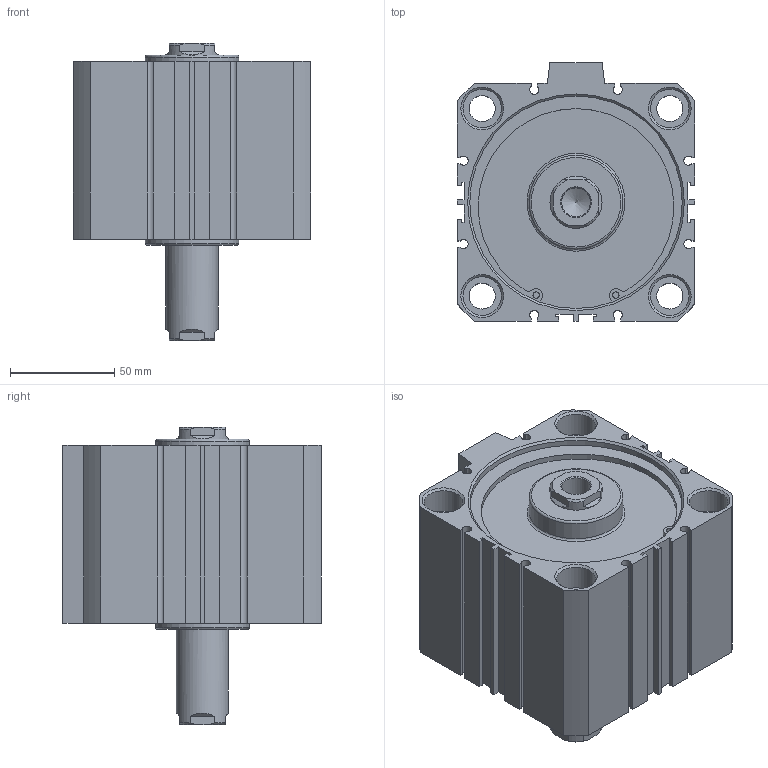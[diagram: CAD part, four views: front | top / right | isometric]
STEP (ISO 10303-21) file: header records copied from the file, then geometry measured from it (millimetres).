
FILE_DESCRIPTION((''),'2;1');
FILE_NAME('I:\3D電子目錄\氣缸\JDD\JDD\JDD100\JDD100x40.stp','2007-02-08T11:56:47',('662F206'),(''),'Autodesk Inventor 10','Autodesk Inventor 10','');
FILE_SCHEMA(('AUTOMOTIVE_DESIGN { 1 0 10303 214 1 1 1 1 }'));
Length unit declared in the file: millimetre
Products named in the file (3): JDD100; R 形環 100
Assembly tree (3 placements, depth 2):
  JDD100
    JDD100
    R 形環 100  x2
Bounding box: 114 x 124 x 142.7 mm (x, y, z)
Volume: 962765.8 mm3; surface area: 118173.9 mm2
Topology: 3 solids, 3 shells, 200 faces, 502 edges, 330 vertices
Faces by surface type: plane 116, cylinder 52, cone 24, bspline 6, torus 2
Full cylindrical faces by diameter (mm): 3.1 x4, 3.5 x2, 12.5 x4, 18.5 x8, 25 x2, 45 x2, 102 x4, 106 x2
Entity records: 5511 total; most frequent: CARTESIAN_POINT 1094, DIRECTION 908, ORIENTED_EDGE 824, EDGE_CURVE 412, AXIS2_PLACEMENT_3D 324, VERTEX_POINT 300, EDGE_LOOP 272, VECTOR 260
